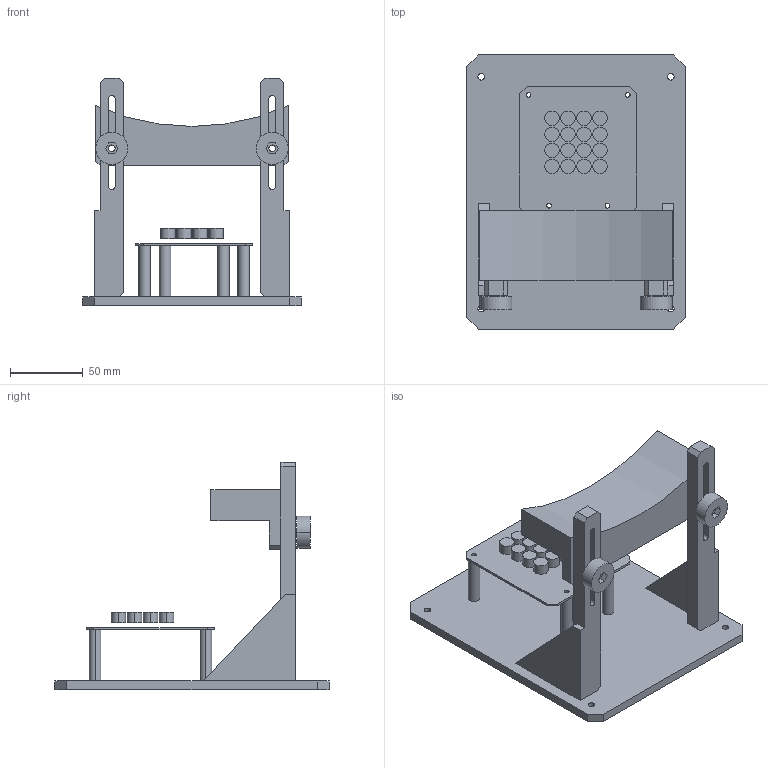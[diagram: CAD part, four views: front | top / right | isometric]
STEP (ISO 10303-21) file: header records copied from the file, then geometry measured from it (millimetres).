
FILE_DESCRIPTION (( 'STEP AP203' ), '1' );
FILE_NAME ('Wrist_support_assembly.step', '2026-09-29T11:35:33', ( '' ), ( '' ), 'SwSTEP 2.0', 'SolidWorks 2025', '' );
FILE_SCHEMA (( 'CONFIG_CONTROL_DESIGN' ));
Length unit declared in the file: millimetre
Products named in the file (7): Wrist_support_assembly; 05_pcb_standoff_35; REF_16_emitters; 04_wrist_cradle; 06_m4_nut_knob; 03_wrist_and_board_base; REF_pcb_80x88
Assembly tree (10 placements, depth 2):
  Wrist_support_assembly
    03_wrist_and_board_base
    04_wrist_cradle
    REF_pcb_80x88
    REF_16_emitters
    05_pcb_standoff_35  x4
    06_m4_nut_knob  x2
Bounding box: 150 x 188 x 156 mm (x, y, z)
Volume: 364702.9 mm3; surface area: 136486.4 mm2
Topology: 25 solids, 25 shells, 206 faces, 456 edges, 304 vertices
Faces by surface type: plane 115, cylinder 91
Entity records: 5805 total; most frequent: DIRECTION 916, CARTESIAN_POINT 838, ORIENTED_EDGE 780, EDGE_CURVE 390, AXIS2_PLACEMENT_3D 338, VERTEX_POINT 260, LINE 240, VECTOR 240
